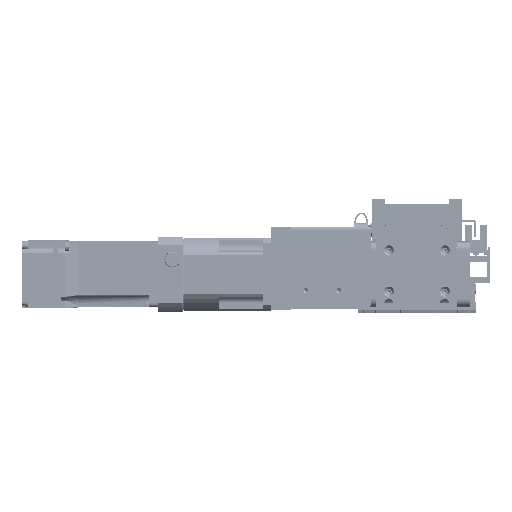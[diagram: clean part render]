
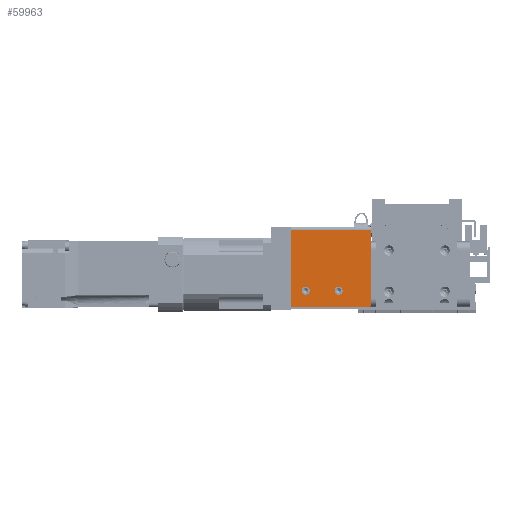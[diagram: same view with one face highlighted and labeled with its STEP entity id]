
A CAD part, top view. The second image highlights one B-rep face of the part: STEP entity #59963.
In plain terms, the highlighted planar face has unit normal (0, 0, 1).
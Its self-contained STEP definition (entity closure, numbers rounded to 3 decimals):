
#1813=FACE_BOUND('',#10275,.T.);
#1814=FACE_BOUND('',#10276,.T.);
#3259=PLANE('',#67023);
#6389=FACE_OUTER_BOUND('',#10274,.T.);
#10274=EDGE_LOOP('',(#52945,#52946,#52947,#52948,#52949,#52950));
#10275=EDGE_LOOP('',(#52951));
#10276=EDGE_LOOP('',(#52952));
#14288=CIRCLE('',#67006,2.5);
#14292=CIRCLE('',#67012,2.5);
#14296=CIRCLE('',#67018,1.);
#14300=CIRCLE('',#67024,1.);
#18298=LINE('',#103776,#23313);
#18305=LINE('',#103794,#23320);
#18306=LINE('',#103798,#23321);
#18307=LINE('',#103799,#23322);
#23313=VECTOR('',#82844,10.);
#23320=VECTOR('',#82857,10.);
#23321=VECTOR('',#82860,10.);
#23322=VECTOR('',#82861,10.);
#29176=VERTEX_POINT('',#103742);
#29180=VERTEX_POINT('',#103754);
#29184=VERTEX_POINT('',#103766);
#29185=VERTEX_POINT('',#103767);
#29188=VERTEX_POINT('',#103775);
#29196=VERTEX_POINT('',#103793);
#29197=VERTEX_POINT('',#103795);
#29198=VERTEX_POINT('',#103797);
#37264=EDGE_CURVE('',#29176,#29176,#14288,.T.);
#37270=EDGE_CURVE('',#29180,#29180,#14292,.T.);
#37276=EDGE_CURVE('',#29184,#29185,#14296,.T.);
#37280=EDGE_CURVE('',#29185,#29188,#18298,.T.);
#37289=EDGE_CURVE('',#29184,#29196,#18305,.T.);
#37290=EDGE_CURVE('',#29197,#29196,#14300,.T.);
#37291=EDGE_CURVE('',#29198,#29197,#18306,.T.);
#37292=EDGE_CURVE('',#29188,#29198,#18307,.T.);
#52945=ORIENTED_EDGE('',*,*,#37276,.F.);
#52946=ORIENTED_EDGE('',*,*,#37289,.T.);
#52947=ORIENTED_EDGE('',*,*,#37290,.F.);
#52948=ORIENTED_EDGE('',*,*,#37291,.F.);
#52949=ORIENTED_EDGE('',*,*,#37292,.F.);
#52950=ORIENTED_EDGE('',*,*,#37280,.F.);
#52951=ORIENTED_EDGE('',*,*,#37264,.T.);
#52952=ORIENTED_EDGE('',*,*,#37270,.T.);
#59963=ADVANCED_FACE('',(#6389,#1813,#1814),#3259,.T.);
#67006=AXIS2_PLACEMENT_3D('',#103743,#82808,#82809);
#67012=AXIS2_PLACEMENT_3D('',#103755,#82822,#82823);
#67018=AXIS2_PLACEMENT_3D('',#103768,#82836,#82837);
#67023=AXIS2_PLACEMENT_3D('',#103792,#82855,#82856);
#67024=AXIS2_PLACEMENT_3D('',#103796,#82858,#82859);
#82808=DIRECTION('center_axis',(0.,0.,-1.));
#82809=DIRECTION('ref_axis',(1.,0.,0.));
#82822=DIRECTION('center_axis',(0.,0.,-1.));
#82823=DIRECTION('ref_axis',(1.,0.,0.));
#82836=DIRECTION('center_axis',(0.,0.,-1.));
#82837=DIRECTION('ref_axis',(-0.707,-0.707,0.));
#82844=DIRECTION('',(0.,1.,0.));
#82855=DIRECTION('center_axis',(0.,0.,1.));
#82856=DIRECTION('ref_axis',(0.,-1.,0.));
#82857=DIRECTION('',(1.,0.,0.));
#82858=DIRECTION('center_axis',(0.,0.,-1.));
#82859=DIRECTION('ref_axis',(0.707,-0.707,0.));
#82860=DIRECTION('',(0.,-1.,0.));
#82861=DIRECTION('',(1.,0.,0.));
#103742=CARTESIAN_POINT('',(-17.75,-14.5,27.));
#103743=CARTESIAN_POINT('Origin',(-15.25,-14.5,27.));
#103754=CARTESIAN_POINT('',(2.25,-14.5,27.));
#103755=CARTESIAN_POINT('Origin',(4.75,-14.5,27.));
#103766=CARTESIAN_POINT('',(-23.25,-24.5,27.));
#103767=CARTESIAN_POINT('',(-24.25,-23.5,27.));
#103768=CARTESIAN_POINT('Origin',(-23.25,-23.5,27.));
#103775=CARTESIAN_POINT('',(-24.25,22.5,27.));
#103776=CARTESIAN_POINT('',(-24.25,24.5,27.));
#103792=CARTESIAN_POINT('Origin',(0.,24.5,27.));
#103793=CARTESIAN_POINT('',(23.25,-24.5,27.));
#103794=CARTESIAN_POINT('',(0.,-24.5,27.));
#103795=CARTESIAN_POINT('',(24.25,-23.5,27.));
#103796=CARTESIAN_POINT('Origin',(23.25,-23.5,27.));
#103797=CARTESIAN_POINT('',(24.25,22.5,27.));
#103798=CARTESIAN_POINT('',(24.25,24.5,27.));
#103799=CARTESIAN_POINT('',(0.,22.5,27.));
